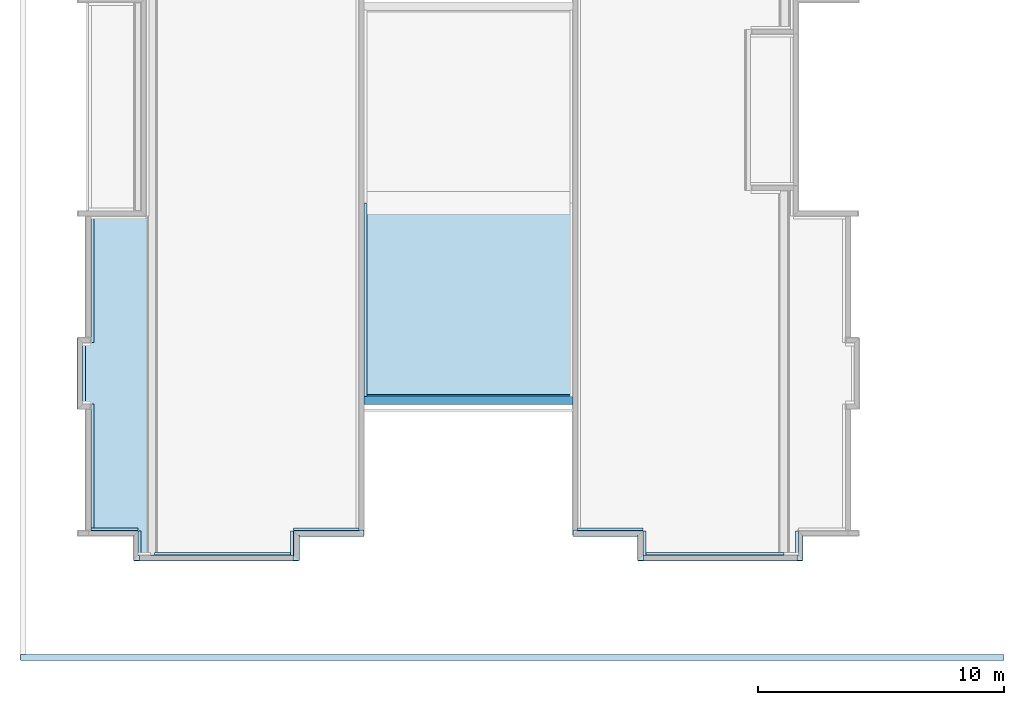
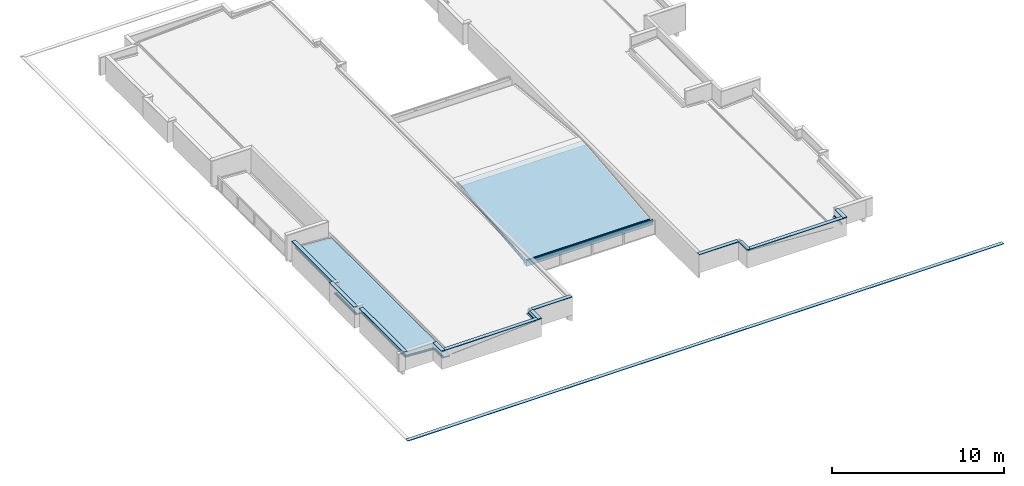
# One storey, part 9 of 25: 28 roofs.
"""IFC4 building model written with IfcOpenShell, lengths in metres."""

from ifc_helpers import new_model, entity, si_unit, converted_unit, derived_unit, direction, frame, origin_with_axes, place, context, subcontext, project, spatial, line, indexed_curve, outline, extrude, clip, halfspace, material, material_profile, profile_set, type_object, element, save


model = new_model("IFC4")

# Units and contexts
model_context = context("Model", 3, precision=1e-05, world=origin_with_axes(), true_north=direction((0.0, 1.0)))
body_context = subcontext(model_context, "Body", "Model", "MODEL_VIEW")
ifc_project = project(units=[si_unit("LENGTHUNIT", "METRE"), si_unit("AREAUNIT", "SQUARE_METRE"), si_unit("VOLUMEUNIT", "CUBIC_METRE"), converted_unit("PLANEANGLEUNIT", "DEGREE", entity("IfcPlaneAngleMeasure", 0.0174532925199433), si_unit("PLANEANGLEUNIT", "RADIAN"), dimensions=[0, 0, 0, 0, 0, 0, 0]), converted_unit("TIMEUNIT", "Year", entity("IfcTimeMeasure", 31557600.0), si_unit("TIMEUNIT", "SECOND"), dimensions=[0, 0, 1, 0, 0, 0, 0]), si_unit("MASSUNIT", "GRAM", prefix="KILO"), si_unit("THERMODYNAMICTEMPERATUREUNIT", "DEGREE_CELSIUS"), si_unit("LUMINOUSINTENSITYUNIT", "LUMEN"), si_unit("ENERGYUNIT", "JOULE", prefix="MEGA"), derived_unit("THERMALCONDUCTANCEUNIT", [(si_unit("POWERUNIT", "WATT"), 1), (si_unit("LENGTHUNIT", "METRE"), -1), (si_unit("THERMODYNAMICTEMPERATUREUNIT", "KELVIN"), -1)]), derived_unit("SPECIFICHEATCAPACITYUNIT", [(si_unit("ENERGYUNIT", "JOULE"), 1), (si_unit("MASSUNIT", "GRAM", prefix="KILO"), -1), (si_unit("THERMODYNAMICTEMPERATUREUNIT", "KELVIN"), -1)]), derived_unit("MASSDENSITYUNIT", [(si_unit("MASSUNIT", "GRAM", prefix="KILO"), 1), (si_unit("VOLUMEUNIT", "CUBIC_METRE"), -1)])], contexts=[model_context])

# Site, building, storey
site_placement = place(None, origin_with_axes())
site = spatial("IfcSite", under=ifc_project, at=site_placement, Name="PADRÃO", CompositionType="ELEMENT")
building_placement = place(site_placement, origin_with_axes())
building = spatial("IfcBuilding", under=site, at=building_placement, Name="CRECHE PRÉ-ESCOLA TIPO 2", CompositionType="ELEMENT")
storey_placement = place(building_placement, frame((0.0, 0.0, 3.26), z_axis=(0.0, 0.0, 1.0), x_axis=(1.0, 0.0, 0.0)))
storey = spatial("IfcBuildingStorey", under=building, at=storey_placement, Name="COBERTURA", CompositionType="ELEMENT", Elevation=3.26)

# Roofs
ifc_material_1 = material(Name="TELHA METÁLICA TERMOACÚSTICA")
roof_type_1 = type_object("IfcRoofType", Name="TELHA METÁLICA TERMOACÚSTICA 70", PredefinedType="NOTDEFINED")
roof_1_placement = place(storey_placement, frame((-37.1400491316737, 5.25000196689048, 0.7296), z_axis=(0.0, 0.0, 1.0), x_axis=(0.0, 1.0, 0.0)))
element("IfcRoof", 1, at=roof_1_placement, inside=storey, type_object=roof_type_1, material=ifc_material_1, Name="Cobert.-001", PredefinedType="NOTDEFINED", context=body_context, shape_type="SweptSolid", body=[
    extrude(outline(indexed_curve([(12.8000064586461, 0.00417702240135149), (7.65000092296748, 0.00417702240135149), (7.65000092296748, 0.354817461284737), (5.15000091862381, 0.354817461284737), (5.15000091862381, 0.00421014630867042), (9.19446579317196e-07, 0.00421014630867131), (9.19446579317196e-07, -1.90929012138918), (-0.999864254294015, -1.90929012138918), (-0.999864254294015, -2.4351163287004), (12.8000064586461, -2.4351163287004)], segments=[line(1, 2, 3, 4, 5, 6, 7, 8, 9, 10, 1)])), frame((0.0, 0.0, 0.0), z_axis=(0.0, -0.0603895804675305, 0.998174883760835), x_axis=(1.0, 0.0, 0.0)), (0.0, 0.0, 1.0), 0.07),
])
roof_2_placement = place(storey_placement, frame((-26.0400173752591, 10.7216836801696, 0.35290240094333), z_axis=(0.0, 0.0, 1.0), x_axis=(1.0, 0.0, 0.0)))
element("IfcRoof", 2, at=roof_2_placement, inside=storey, type_object=roof_type_1, material=ifc_material_1, Name="Cobert.-005", PredefinedType="NOTDEFINED", context=body_context, shape_type="SweptSolid", body=[
    extrude(outline(indexed_curve([(0.0, 0.007), (8.4999668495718, 0.007), (8.4999668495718, 7.89962199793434), (0.0, 7.90117785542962)], segments=[line(1, 2, 3, 4, 1)])), frame((0.0, 0.0, 0.0), z_axis=(0.0, -0.0995037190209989, 0.995037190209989), x_axis=(1.0, 0.0, 0.0)), (0.0, 0.0, 1.0), 0.07),
])
ifc_material_2 = material(Name="RUFO EM CHAPA DE AÇO GALVANIZADO")
ifc_material_profile_1 = material_profile(ifc_material_2, outline(indexed_curve([(-0.123242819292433, 0.0), (-0.123136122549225, -0.000994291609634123), (-0.01, 0.0111462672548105), (-0.01, 0.0811462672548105), (0.000794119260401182, 0.0919771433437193), (8.58116060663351e-05, 0.0926830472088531), (-0.011, 0.0815594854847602), (-0.011, 0.0120446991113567), (-0.123136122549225, 1.14495535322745e-05)], segments=[line(1, 2, 3, 4, 5, 6, 7, 8, 9, 1)])), Name="RUFO EM CHAPA DE AÇO GALVANIZADO")
ifc_profile_set_1 = profile_set([ifc_material_profile_1], Name="FNDE-Rufo")
roof_type_2 = type_object("IfcRoofType", Name="FNDE-Rufo 124 x 94", PredefinedType="NOTDEFINED")
roof_3_placement = place(storey_placement, frame((-17.339790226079, 5.25021873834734, 1.17755602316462), z_axis=(0.0, 0.0, 1.0), x_axis=(1.0366435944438e-10, -1.0, 0.0)))
element("IfcRoof", 3, at=roof_3_placement, inside=storey, type_object=roof_type_2, material=ifc_profile_set_1, Name="V01", PredefinedType="NOTDEFINED", context=body_context, shape_type="Clipping", body=[
    clip(clip(extrude(outline(indexed_curve([(-0.123242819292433, 0.0), (-0.123136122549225, -0.000994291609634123), (-0.01, 0.0111462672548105), (-0.01, 0.0811462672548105), (0.000794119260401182, 0.0919771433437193), (8.58116060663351e-05, 0.0926830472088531), (-0.011, 0.0815594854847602), (-0.011, 0.0120446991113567), (-0.123136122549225, 1.14495535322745e-05)], segments=[line(1, 2, 3, 4, 5, 6, 7, 8, 9, 1)])), frame((0.0, 2.66053162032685, -0.163888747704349), z_axis=(0.0, -0.998108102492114, 0.0614834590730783), x_axis=(1.0, 0.0, 0.0)), (0.0, 0.0, 1.0), 2.67638016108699), halfspace(frame((0.0, 0.0, 0.0), z_axis=(0.0, 1.0, 0.0), x_axis=(0.0, 0.0, 1.0)), True)), halfspace(frame((0.0, 2.64974651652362, 0.0), z_axis=(0.0, -1.0, 0.0), x_axis=(0.0, 0.0, -1.0)), True)),
])
roof_4_placement = place(storey_placement, frame((-14.6900427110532, 4.25022062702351, 1.01432991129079), z_axis=(0.0, 0.0, 1.0), x_axis=(1.09203856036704e-05, -0.999999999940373, 0.0)))
element("IfcRoof", 4, at=roof_4_placement, inside=storey, type_object=roof_type_2, material=ifc_profile_set_1, Name="V01", PredefinedType="NOTDEFINED", context=body_context, shape_type="Clipping", body=[
    clip(clip(extrude(outline(indexed_curve([(-0.123242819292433, 0.0), (-0.123136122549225, -0.000994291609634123), (-0.01, 0.0111462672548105), (-0.01, 0.0811462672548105), (0.000794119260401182, 0.0919771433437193), (8.58116060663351e-05, 0.0926830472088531), (-0.011, 0.0815594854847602), (-0.011, 0.0120446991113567), (-0.123136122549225, 1.14495535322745e-05)], segments=[line(1, 2, 3, 4, 5, 6, 7, 8, 9, 1)])), frame((0.0, 5.74495749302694, -0.353890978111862), z_axis=(0.0, -0.998108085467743, 0.0614837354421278), x_axis=(1.0, 0.0, 0.0)), (0.0, 0.0, 1.0), 5.76665265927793), halfspace(frame((0.0, 0.0, 0.0), z_axis=(0.0, 1.0, 0.0), x_axis=(0.0, 0.0, 1.0)), True)), halfspace(frame((0.0, 5.73417234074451, 0.0), z_axis=(0.0, -1.0, 0.0), x_axis=(0.0, 0.0, -1.0)), True)),
])
roof_5_placement = place(storey_placement, frame((-14.6900437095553, 5.25021873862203, 1.01432991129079), z_axis=(0.0, 0.0, 1.0), x_axis=(-0.999999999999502, -9.98504023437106e-07, 0.0)))
element("IfcRoof", 5, at=roof_5_placement, inside=storey, type_object=roof_type_2, material=ifc_profile_set_1, Name="V01", PredefinedType="NOTDEFINED", context=body_context, shape_type="SweptSolid", body=[
    extrude(outline(indexed_curve([(-0.123242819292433, 0.0), (-0.123136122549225, -0.000994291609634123), (-0.01, 0.0111462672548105), (-0.01, 0.0811462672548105), (0.000794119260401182, 0.0919771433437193), (8.58116060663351e-05, 0.0926830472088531), (-0.011, 0.0815594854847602), (-0.011, 0.0120446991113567), (-0.123136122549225, 1.14495535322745e-05)], segments=[line(1, 2, 3, 4, 5, 6, 7, 8, 9, 1)])), frame((0.0, 0.999998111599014, 0.0), z_axis=(0.0, -1.0, 0.0), x_axis=(1.0, 0.0, 0.0)), (0.0, 0.0, 1.0), 0.999998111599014),
])
roof_6_placement = place(storey_placement, frame((-8.35061730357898, 5.25015602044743, 0.684204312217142), z_axis=(0.0, 0.0, 1.0), x_axis=(-0.999999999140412, -4.14629476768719e-05, 0.0)))
element("IfcRoof", 6, at=roof_6_placement, inside=storey, type_object=roof_type_2, material=ifc_profile_set_1, Name="V01", PredefinedType="NOTDEFINED", context=body_context, shape_type="SweptSolid", body=[
    extrude(outline(indexed_curve([(-0.123242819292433, 0.0), (-0.123136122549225, -0.000994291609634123), (-0.01, 0.0111462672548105), (-0.01, 0.0811462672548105), (0.000794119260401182, 0.0919771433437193), (8.58116060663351e-05, 0.0926830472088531), (-0.011, 0.0815594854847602), (-0.011, 0.0120446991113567), (-0.123136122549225, 1.14495535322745e-05)], segments=[line(1, 2, 3, 4, 5, 6, 7, 8, 9, 1)])), frame((0.0, 0.999933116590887, 0.0), z_axis=(0.0, 1.0, 0.0), x_axis=(-1.0, 0.0, 0.0)), (0.0, 0.0, -1.0), 0.999933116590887),
])
roof_7_placement = place(storey_placement, frame((-37.1406285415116, 5.25000000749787, 0.799724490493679), z_axis=(0.0, 0.0, 1.0), x_axis=(1.0, 0.0, 0.0)))
element("IfcRoof", 7, at=roof_7_placement, inside=storey, type_object=roof_type_2, material=ifc_profile_set_1, Name="V01", PredefinedType="NOTDEFINED", context=body_context, shape_type="SweptSolid", body=[
    extrude(outline(indexed_curve([(-0.123242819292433, 0.0), (-0.123136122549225, -0.000994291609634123), (-0.01, 0.0111462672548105), (-0.01, 0.0811462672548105), (0.000794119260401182, 0.0919771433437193), (8.58116060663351e-05, 0.0926830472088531), (-0.011, 0.0815594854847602), (-0.011, 0.0120446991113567), (-0.123136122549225, 1.14495535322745e-05)], segments=[line(1, 2, 3, 4, 5, 6, 7, 8, 9, 1)])), frame((0.0, 5.14998831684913, 0.0), z_axis=(0.0, 1.0, 0.0), x_axis=(-1.0, 0.0, 0.0)), (0.0, 0.0, -1.0), 5.14998831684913),
])
roof_8_placement = place(storey_placement, frame((-37.4910623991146, 10.4000136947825, 0.820899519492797), z_axis=(0.0, 0.0, 1.0), x_axis=(0.999999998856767, -4.7816998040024e-05, 0.0)))
element("IfcRoof", 8, at=roof_8_placement, inside=storey, type_object=roof_type_2, material=ifc_profile_set_1, Name="V01", PredefinedType="NOTDEFINED", context=body_context, shape_type="SweptSolid", body=[
    extrude(outline(indexed_curve([(-0.123242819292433, 0.0), (-0.123136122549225, -0.000994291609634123), (-0.01, 0.0111462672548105), (-0.01, 0.0811462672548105), (0.000794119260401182, 0.0919771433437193), (8.58116060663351e-05, 0.0926830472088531), (-0.011, 0.0815594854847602), (-0.011, 0.0120446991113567), (-0.123136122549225, 1.14495535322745e-05)], segments=[line(1, 2, 3, 4, 5, 6, 7, 8, 9, 1)])), frame((0.0, 2.49998732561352, 0.0), z_axis=(0.0, 1.0, 0.0), x_axis=(-1.0, 0.0, 0.0)), (0.0, 0.0, -1.0), 2.49998732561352),
])
roof_9_placement = place(storey_placement, frame((-37.1406860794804, 12.9000010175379, 0.799889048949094), z_axis=(0.0, 0.0, 1.0), x_axis=(1.0, 0.0, 0.0)))
element("IfcRoof", 9, at=roof_9_placement, inside=storey, type_object=roof_type_2, material=ifc_profile_set_1, Name="V01", PredefinedType="NOTDEFINED", context=body_context, shape_type="SweptSolid", body=[
    extrude(outline(indexed_curve([(-0.123242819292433, 0.0), (-0.123136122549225, -0.000994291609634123), (-0.01, 0.0111462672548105), (-0.01, 0.0811462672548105), (0.000794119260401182, 0.0919771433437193), (8.58116060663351e-05, 0.0926830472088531), (-0.011, 0.0815594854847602), (-0.011, 0.0120446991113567), (-0.123136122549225, 1.14495535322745e-05)], segments=[line(1, 2, 3, 4, 5, 6, 7, 8, 9, 1)])), frame((0.0, 5.14999851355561, 0.0), z_axis=(0.0, 1.0, 0.0), x_axis=(-1.0, 0.0, 0.0)), (0.0, 0.0, -1.0), 5.14999851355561),
])
roof_10_placement = place(storey_placement, frame((-26.2385567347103, 5.25000111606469, 1.17167117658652), z_axis=(0.0, 0.0, 1.0), x_axis=(1.03663519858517e-10, 1.0, 0.0)))
element("IfcRoof", 10, at=roof_10_placement, inside=storey, type_object=roof_type_2, material=ifc_profile_set_1, Name="V01", PredefinedType="NOTDEFINED", context=body_context, shape_type="Clipping", body=[
    clip(clip(extrude(outline(indexed_curve([(-0.123242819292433, 0.0), (-0.123136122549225, -0.000994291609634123), (-0.01, 0.0111462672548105), (-0.01, 0.0811462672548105), (0.000794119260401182, 0.0919771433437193), (8.58116060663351e-05, 0.0926830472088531), (-0.011, 0.0815594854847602), (-0.011, 0.0120446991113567), (-0.123136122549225, 1.14495535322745e-05)], segments=[line(1, 2, 3, 4, 5, 6, 7, 8, 9, 1)])), frame((0.0, 2.66235113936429, -0.162151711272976), z_axis=(0.0, 0.998150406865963, -0.0607928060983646), x_axis=(-1.0, 0.0, 0.0)), (0.0, 0.0, -1.0), 2.67796824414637), halfspace(frame((0.0, 0.0, 0.0), z_axis=(0.0, 1.0, 0.0), x_axis=(0.0, 0.0, 1.0)), True)), halfspace(frame((0.0, 2.65168718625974, 0.0), z_axis=(0.0, -1.0, 0.0), x_axis=(0.0, 0.0, -1.0)), True)),
])
roof_11_placement = place(storey_placement, frame((-26.0400173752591, 18.5725247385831, 1.20835983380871), z_axis=(0.0, 0.0, 1.0), x_axis=(-1.0, 0.0, 0.0)))
element("IfcRoof", 11, at=roof_11_placement, inside=storey, type_object=roof_type_2, material=ifc_profile_set_1, Name="V10", PredefinedType="NOTDEFINED", context=body_context, shape_type="Clipping", body=[
    clip(clip(extrude(outline(indexed_curve([(-0.123242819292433, 0.0), (-0.123136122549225, -0.000994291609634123), (-0.01, 0.0111462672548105), (-0.01, 0.0811462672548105), (0.000794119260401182, 0.0919771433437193), (8.58116060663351e-05, 0.0926830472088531), (-0.011, 0.0815594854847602), (-0.011, 0.0120446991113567), (-0.123136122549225, 1.14495535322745e-05)], segments=[line(1, 2, 3, 4, 5, 6, 7, 8, 9, 1)])), frame((0.0, 7.8682960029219, -0.786853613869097), z_axis=(0.0, -0.995036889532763, 0.0995067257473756), x_axis=(1.0, 0.0, 0.0)), (0.0, 0.0, 1.0), 7.92508401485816), halfspace(frame((0.0, 0.0, 0.0), z_axis=(0.0, 1.0, 0.0), x_axis=(0.0, 0.0, 1.0)), True)), halfspace(frame((0.0, 7.8508410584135, 0.0), z_axis=(0.0, -1.0, 0.0), x_axis=(0.0, 0.0, -1.0)), True)),
])
roof_12_placement = place(storey_placement, frame((-28.8902449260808, 4.25028909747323, 1.01016895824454), z_axis=(0.0, 0.0, 1.0), x_axis=(-2.30995829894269e-05, 0.999999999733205, 0.0)))
element("IfcRoof", 12, at=roof_12_placement, inside=storey, type_object=roof_type_2, material=ifc_profile_set_1, Name="V01", PredefinedType="NOTDEFINED", context=body_context, shape_type="Clipping", body=[
    clip(clip(extrude(outline(indexed_curve([(-0.123242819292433, 0.0), (-0.123136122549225, -0.000994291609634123), (-0.01, 0.0111462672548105), (-0.01, 0.0811462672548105), (0.000794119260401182, 0.0919771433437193), (8.58116060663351e-05, 0.0926830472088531), (-0.011, 0.0815594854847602), (-0.011, 0.0120446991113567), (-0.123136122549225, 1.14495535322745e-05)], segments=[line(1, 2, 3, 4, 5, 6, 7, 8, 9, 1)])), frame((0.0, 5.66659814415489, -0.348957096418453), z_axis=(0.0, 0.998109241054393, -0.0614649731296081), x_axis=(-1.0, 0.0, 0.0)), (0.0, 0.0, -1.0), 5.68813489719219), halfspace(frame((0.0, 0.0, 0.0), z_axis=(0.0, 1.0, 0.0), x_axis=(0.0, 0.0, 1.0)), True)), halfspace(frame((0.0, 5.65581628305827, 0.0), z_axis=(0.0, -1.0, 0.0), x_axis=(0.0, 0.0, -1.0)), True)),
])
roof_13_placement = place(storey_placement, frame((-28.8902439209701, 5.25000111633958, 1.01016895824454), z_axis=(0.0, 0.0, 1.0), x_axis=(-0.999999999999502, 9.98504024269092e-07, 0.0)))
element("IfcRoof", 13, at=roof_13_placement, inside=storey, type_object=roof_type_2, material=ifc_profile_set_1, Name="V01", PredefinedType="NOTDEFINED", context=body_context, shape_type="SweptSolid", body=[
    extrude(outline(indexed_curve([(-0.123242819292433, 0.0), (-0.123136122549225, -0.000994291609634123), (-0.01, 0.0111462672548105), (-0.01, 0.0811462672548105), (0.000794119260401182, 0.0919771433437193), (8.58116060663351e-05, 0.0926830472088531), (-0.011, 0.0815594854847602), (-0.011, 0.0120446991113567), (-0.123136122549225, 1.14495535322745e-05)], segments=[line(1, 2, 3, 4, 5, 6, 7, 8, 9, 1)])), frame((0.0, 0.999998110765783, 0.0), z_axis=(0.0, 1.0, 0.0), x_axis=(-1.0, 0.0, 0.0)), (0.0, 0.0, -1.0), 0.999998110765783),
])
roof_14_placement = place(storey_placement, frame((-37.1406285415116, 5.25000000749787, 0.799724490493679), z_axis=(0.0, 0.0, 1.0), x_axis=(0.0, -1.0, 0.0)))
element("IfcRoof", 14, at=roof_14_placement, inside=storey, type_object=roof_type_2, material=ifc_profile_set_1, Name="V01", PredefinedType="NOTDEFINED", context=body_context, shape_type="Clipping", body=[
    clip(clip(extrude(outline(indexed_curve([(-0.123242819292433, 0.0), (-0.123136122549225, -0.000994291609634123), (-0.01, 0.0111462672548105), (-0.01, 0.0811462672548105), (0.000794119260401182, 0.0919771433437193), (8.58116060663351e-05, 0.0926830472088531), (-0.011, 0.0815594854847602), (-0.011, 0.0120446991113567), (-0.123136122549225, 1.14495535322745e-05)], segments=[line(1, 2, 3, 4, 5, 6, 7, 8, 9, 1)])), frame((0.0, 1.92108215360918, -0.116191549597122), z_axis=(0.0, -0.998175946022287, 0.0603720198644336), x_axis=(1.0, 0.0, 0.0)), (0.0, 0.0, 1.0), 1.935202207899), halfspace(frame((0.0, 0.0, 0.0), z_axis=(0.0, 1.0, 0.0), x_axis=(0.0, 0.0, 1.0)), True)), halfspace(frame((0.0, 1.91049201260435, 0.0), z_axis=(0.0, -1.0, 0.0), x_axis=(0.0, 0.0, -1.0)), True)),
])
roof_15_placement = place(storey_placement, frame((-35.2300950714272, 4.25013187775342, 0.68650078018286), z_axis=(0.0, 0.0, 1.0), x_axis=(0.999999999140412, 4.14629476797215e-05, 0.0)))
element("IfcRoof", 15, at=roof_15_placement, inside=storey, type_object=roof_type_2, material=ifc_profile_set_1, Name="V01", PredefinedType="NOTDEFINED", context=body_context, shape_type="SweptSolid", body=[
    extrude(outline(indexed_curve([(-0.123242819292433, 0.0), (-0.123136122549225, -0.000994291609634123), (-0.01, 0.0111462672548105), (-0.01, 0.0811462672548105), (0.000794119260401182, 0.0919771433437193), (8.58116060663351e-05, 0.0926830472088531), (-0.011, 0.0815594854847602), (-0.011, 0.0120446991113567), (-0.123136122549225, 1.14495535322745e-05)], segments=[line(1, 2, 3, 4, 5, 6, 7, 8, 9, 1)])), frame((0.0, 0.999868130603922, 0.0), z_axis=(0.0, 1.0, 0.0), x_axis=(-1.0, 0.0, 0.0)), (0.0, 0.0, -1.0), 0.999868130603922),
])
ifc_material_3 = material(Name="PINGADEIRA EM CHAPA DE AÇO GALVANIZADO")
ifc_material_profile_2 = material_profile(ifc_material_3, outline(indexed_curve([(0.00496259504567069, -0.0184313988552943), (0.0250000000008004, -0.03), (0.0250000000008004, 0.01), (-0.225020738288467, 0.01), (-0.22503740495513, -0.03), (-0.205, -0.0184313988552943), (-0.2055, -0.0175653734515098), (-0.224036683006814, -0.0282675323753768), (-0.224021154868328, 0.009), (0.0240000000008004, 0.009), (0.0240000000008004, -0.0282679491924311), (0.00546259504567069, -0.0175653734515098)], segments=[line(1, 2, 3, 4, 5, 6, 7, 8, 9, 10, 11, 12, 1)])), Name="PINGADEIRA EM CHAPA DE AÇO GALVANIZADO")
ifc_profile_set_2 = profile_set([ifc_material_profile_2], Name="FNDE-Pingadeira em chapa de aço galvanizado")
roof_type_3 = type_object("IfcRoofType", Name="FNDE-Pingadeira em chapa de aço galvanizado 250 x 40", PredefinedType="NOTDEFINED")
roof_16_placement = place(storey_placement, frame((-8.20056425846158, 4.05001723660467, 1.31), z_axis=(0.0, 0.0, 1.0), x_axis=(2.0731473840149e-05, 0.999999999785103, 0.0)))
element("IfcRoof", 16, at=roof_16_placement, inside=storey, type_object=roof_type_3, material=ifc_profile_set_2, Name="V01", PredefinedType="NOTDEFINED", context=body_context, shape_type="SweptSolid", body=[
    extrude(outline(indexed_curve([(0.00496259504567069, -0.0184313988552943), (0.0250000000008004, -0.03), (0.0250000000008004, 0.01), (-0.225020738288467, 0.01), (-0.22503740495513, -0.03), (-0.205, -0.0184313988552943), (-0.2055, -0.0175653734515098), (-0.224036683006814, -0.0282675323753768), (-0.224021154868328, 0.009), (0.0240000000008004, 0.009), (0.0240000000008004, -0.0282679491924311), (0.00546259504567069, -0.0175653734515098)], segments=[line(1, 2, 3, 4, 5, 6, 7, 8, 9, 10, 11, 12, 1)])), frame((0.0, 6.69000004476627, 0.0), z_axis=(0.0, 1.0, 0.0), x_axis=(-1.0, 0.0, 0.0)), (0.0, 0.0, -1.0), 6.69000004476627),
])
roof_17_placement = place(storey_placement, frame((-17.5400505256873, 5.05015592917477, 1.31), z_axis=(0.0, 0.0, 1.0), x_axis=(0.0, -1.0, 0.0)))
element("IfcRoof", 17, at=roof_17_placement, inside=storey, type_object=roof_type_3, material=ifc_profile_set_2, Name="V01", PredefinedType="NOTDEFINED", context=body_context, shape_type="SweptSolid", body=[
    extrude(outline(indexed_curve([(0.00496259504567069, -0.0184313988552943), (0.0250000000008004, -0.03), (0.0250000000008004, 0.01), (-0.225020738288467, 0.01), (-0.22503740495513, -0.03), (-0.205, -0.0184313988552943), (-0.2055, -0.0175653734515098), (-0.224036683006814, -0.0282675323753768), (-0.224021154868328, 0.009), (0.0240000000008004, 0.009), (0.0240000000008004, -0.0282679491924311), (0.00546259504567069, -0.0175653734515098)], segments=[line(1, 2, 3, 4, 5, 6, 7, 8, 9, 10, 11, 12, 1)])), frame((0.0, 2.64948622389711, 0.0), z_axis=(0.0, -1.0, 0.0), x_axis=(1.0, 0.0, 0.0)), (0.0, 0.0, 1.0), 2.64948622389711),
])
roof_18_placement = place(storey_placement, frame((-14.8905643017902, 5.05015592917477, 1.31), z_axis=(0.0, 0.0, 1.0), x_axis=(-1.0, 0.0, 0.0)))
element("IfcRoof", 18, at=roof_18_placement, inside=storey, type_object=roof_type_3, material=ifc_profile_set_2, Name="V01", PredefinedType="NOTDEFINED", context=body_context, shape_type="SweptSolid", body=[
    extrude(outline(indexed_curve([(0.00496259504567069, -0.0184313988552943), (0.0250000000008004, -0.03), (0.0250000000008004, 0.01), (-0.225020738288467, 0.01), (-0.22503740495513, -0.03), (-0.205, -0.0184313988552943), (-0.2055, -0.0175653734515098), (-0.224036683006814, -0.0282675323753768), (-0.224021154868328, 0.009), (0.0240000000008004, 0.009), (0.0240000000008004, -0.0282679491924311), (0.00546259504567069, -0.0175653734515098)], segments=[line(1, 2, 3, 4, 5, 6, 7, 8, 9, 10, 11, 12, 1)])), frame((0.0, 0.999999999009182, 0.0), z_axis=(0.0, -1.0, 0.0), x_axis=(1.0, 0.0, 0.0)), (0.0, 0.0, 1.0), 0.999999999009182),
])
roof_19_placement = place(storey_placement, frame((-8.2010428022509, 5.05015567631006, 1.31), z_axis=(0.0, 0.0, 1.0), x_axis=(-0.999999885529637, -0.000478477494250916, 0.0)))
element("IfcRoof", 19, at=roof_19_placement, inside=storey, type_object=roof_type_3, material=ifc_profile_set_2, Name="V01", PredefinedType="NOTDEFINED", context=body_context, shape_type="SweptSolid", body=[
    extrude(outline(indexed_curve([(0.00496259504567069, -0.0184313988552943), (0.0250000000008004, -0.03), (0.0250000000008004, 0.01), (-0.225020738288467, 0.01), (-0.22503740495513, -0.03), (-0.205, -0.0184313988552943), (-0.2055, -0.0175653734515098), (-0.224036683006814, -0.0282675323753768), (-0.224021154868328, 0.009), (0.0240000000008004, 0.009), (0.0240000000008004, -0.0282679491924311), (0.00546259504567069, -0.0175653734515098)], segments=[line(1, 2, 3, 4, 5, 6, 7, 8, 9, 10, 11, 12, 1)])), frame((0.0, 1.00013855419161, 0.0), z_axis=(0.0, 1.0, 0.0), x_axis=(-1.0, 0.0, 0.0)), (0.0, 0.0, -1.0), 1.00013855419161),
])
roof_20_placement = place(storey_placement, frame((-35.3801120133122, 5.04999887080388, 1.31), z_axis=(0.0, 0.0, 1.0), x_axis=(-0.999999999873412, -1.59115317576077e-05, 0.0)))
element("IfcRoof", 20, at=roof_20_placement, inside=storey, type_object=roof_type_3, material=ifc_profile_set_2, Name="V01", PredefinedType="NOTDEFINED", context=body_context, shape_type="SweptSolid", body=[
    extrude(outline(indexed_curve([(0.00496259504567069, -0.0184313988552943), (0.0250000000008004, -0.03), (0.0250000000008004, 0.01), (-0.225020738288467, 0.01), (-0.22503740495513, -0.03), (-0.205, -0.0184313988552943), (-0.2055, -0.0175653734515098), (-0.224036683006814, -0.0282675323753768), (-0.224021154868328, 0.009), (0.0240000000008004, 0.009), (0.0240000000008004, -0.0282679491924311), (0.00546259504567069, -0.0175653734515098)], segments=[line(1, 2, 3, 4, 5, 6, 7, 8, 9, 10, 11, 12, 1)])), frame((0.0, 0.999931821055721, 0.0), z_axis=(0.0, -1.0, 0.0), x_axis=(1.0, 0.0, 0.0)), (0.0, 0.0, 1.0), 0.999931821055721),
])
roof_21_placement = place(storey_placement, frame((-35.3800961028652, 4.05006704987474, 1.31), z_axis=(0.0, 0.0, 1.0), x_axis=(1.5911531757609e-05, -0.999999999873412, 0.0)))
element("IfcRoof", 21, at=roof_21_placement, inside=storey, type_object=roof_type_3, material=ifc_profile_set_2, Name="V01", PredefinedType="NOTDEFINED", context=body_context, shape_type="SweptSolid", body=[
    extrude(outline(indexed_curve([(0.00496259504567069, -0.0184313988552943), (0.0250000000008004, -0.03), (0.0250000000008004, 0.01), (-0.225020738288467, 0.01), (-0.22503740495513, -0.03), (-0.205, -0.0184313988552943), (-0.2055, -0.0175653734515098), (-0.224036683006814, -0.0282675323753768), (-0.224021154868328, 0.009), (0.0240000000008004, 0.009), (0.0240000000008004, -0.0282679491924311), (0.00546259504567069, -0.0175653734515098)], segments=[line(1, 2, 3, 4, 5, 6, 7, 8, 9, 10, 11, 12, 1)])), frame((0.0, 6.69002468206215, 0.0), z_axis=(0.0, -1.0, 0.0), x_axis=(1.0, 0.0, 0.0)), (0.0, 0.0, 1.0), 6.69002468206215),
])
roof_22_placement = place(storey_placement, frame((-28.69007142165, 4.05017349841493, 1.31), z_axis=(0.0, 0.0, 1.0), x_axis=(0.99999999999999, -1.40640752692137e-07, 0.0)))
element("IfcRoof", 22, at=roof_22_placement, inside=storey, type_object=roof_type_3, material=ifc_profile_set_2, Name="V01", PredefinedType="NOTDEFINED", context=body_context, shape_type="SweptSolid", body=[
    extrude(outline(indexed_curve([(0.00496259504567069, -0.0184313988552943), (0.0250000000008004, -0.03), (0.0250000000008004, 0.01), (-0.225020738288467, 0.01), (-0.22503740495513, -0.03), (-0.205, -0.0184313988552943), (-0.2055, -0.0175653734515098), (-0.224036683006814, -0.0282675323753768), (-0.224021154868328, 0.009), (0.0240000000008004, 0.009), (0.0240000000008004, -0.0282679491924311), (0.00546259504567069, -0.0175653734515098)], segments=[line(1, 2, 3, 4, 5, 6, 7, 8, 9, 10, 11, 12, 1)])), frame((0.0, 0.999894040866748, 0.0), z_axis=(0.0, -1.0, 0.0), x_axis=(1.0, 0.0, 0.0)), (0.0, 0.0, 1.0), 0.999894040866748),
])
roof_23_placement = place(storey_placement, frame((-28.6900712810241, 5.05006753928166, 1.31), z_axis=(0.0, 0.0, 1.0), x_axis=(-3.36340030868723e-05, -0.999999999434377, 0.0)))
element("IfcRoof", 23, at=roof_23_placement, inside=storey, type_object=roof_type_3, material=ifc_profile_set_2, Name="V01", PredefinedType="NOTDEFINED", context=body_context, shape_type="SweptSolid", body=[
    extrude(outline(indexed_curve([(0.00496259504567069, -0.0184313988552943), (0.0250000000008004, -0.03), (0.0250000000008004, 0.01), (-0.225020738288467, 0.01), (-0.22503740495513, -0.03), (-0.205, -0.0184313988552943), (-0.2055, -0.0175653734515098), (-0.224036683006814, -0.0282675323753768), (-0.224021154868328, 0.009), (0.0240000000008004, 0.009), (0.0240000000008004, -0.0282679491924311), (0.00546259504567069, -0.0175653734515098)], segments=[line(1, 2, 3, 4, 5, 6, 7, 8, 9, 10, 11, 12, 1)])), frame((0.0, 2.64997492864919, 0.0), z_axis=(0.0, -1.0, 0.0), x_axis=(1.0, 0.0, 0.0)), (0.0, 0.0, 1.0), 2.64997492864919),
])
roof_24_placement = place(storey_placement, frame((-37.3400714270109, 18.0500019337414, 1.31), z_axis=(0.0, 0.0, 1.0), x_axis=(-0.999999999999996, -9.30491507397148e-08, 0.0)))
element("IfcRoof", 24, at=roof_24_placement, inside=storey, type_object=roof_type_3, material=ifc_profile_set_2, Name="V01", PredefinedType="NOTDEFINED", context=body_context, shape_type="SweptSolid", body=[
    extrude(outline(indexed_curve([(0.00496259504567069, -0.0184313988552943), (0.0250000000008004, -0.03), (0.0250000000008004, 0.01), (-0.225020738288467, 0.01), (-0.22503740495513, -0.03), (-0.205, -0.0184313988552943), (-0.2055, -0.0175653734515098), (-0.224036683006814, -0.0282675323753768), (-0.224021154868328, 0.009), (0.0240000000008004, 0.009), (0.0240000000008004, -0.0282679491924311), (0.00546259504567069, -0.0175653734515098)], segments=[line(1, 2, 3, 4, 5, 6, 7, 8, 9, 10, 11, 12, 1)])), frame((0.0, 4.94999998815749, 0.0), z_axis=(0.0, -1.0, 0.0), x_axis=(1.0, 0.0, 0.0)), (0.0, 0.0, 1.0), 4.94999998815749),
])
roof_25_placement = place(storey_placement, frame((-37.3401040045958, 10.2000019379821, 1.31), z_axis=(0.0, 0.0, 1.0), x_axis=(-1.0, 0.0, 0.0)))
element("IfcRoof", 25, at=roof_25_placement, inside=storey, type_object=roof_type_3, material=ifc_profile_set_2, Name="V01", PredefinedType="NOTDEFINED", context=body_context, shape_type="SweptSolid", body=[
    extrude(outline(indexed_curve([(0.00496259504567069, -0.0184313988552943), (0.0250000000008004, -0.03), (0.0250000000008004, 0.01), (-0.225020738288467, 0.01), (-0.22503740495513, -0.03), (-0.205, -0.0184313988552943), (-0.2055, -0.0175653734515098), (-0.224036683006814, -0.0282675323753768), (-0.224021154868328, 0.009), (0.0240000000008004, 0.009), (0.0240000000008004, -0.0282679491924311), (0.00546259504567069, -0.0175653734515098)], segments=[line(1, 2, 3, 4, 5, 6, 7, 8, 9, 10, 11, 12, 1)])), frame((0.0, 5.15000046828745, 0.0), z_axis=(0.0, -1.0, 0.0), x_axis=(1.0, 0.0, 0.0)), (0.0, 0.0, 1.0), 5.15000046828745),
])
roof_26_placement = place(storey_placement, frame((-37.6900714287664, 13.1000019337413, 1.51), z_axis=(0.0, 0.0, 1.0), x_axis=(-1.0, -6.05323913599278e-10, 0.0)))
element("IfcRoof", 26, at=roof_26_placement, inside=storey, type_object=roof_type_3, material=ifc_profile_set_2, Name="V01", PredefinedType="NOTDEFINED", context=body_context, shape_type="SweptSolid", body=[
    extrude(outline(indexed_curve([(0.00496259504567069, -0.0184313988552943), (0.0250000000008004, -0.03), (0.0250000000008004, 0.01), (-0.225020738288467, 0.01), (-0.22503740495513, -0.03), (-0.205, -0.0184313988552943), (-0.2055, -0.0175653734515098), (-0.224036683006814, -0.0282675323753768), (-0.224021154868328, 0.009), (0.0240000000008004, 0.009), (0.0240000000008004, -0.0282679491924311), (0.00546259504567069, -0.0175653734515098)], segments=[line(1, 2, 3, 4, 5, 6, 7, 8, 9, 10, 11, 12, 1)])), frame((0.0, 2.89999999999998, 0.0), z_axis=(0.0, -1.0, 0.0), x_axis=(1.0, 0.0, 0.0)), (0.0, 0.0, 1.0), 2.89999999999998),
])
roof_27_placement = place(storey_placement, frame((-40.0, 0.0, -0.98), z_axis=(0.0, 0.0, 1.0), x_axis=(0.0, -1.0, 0.0)))
element("IfcRoof", 27, at=roof_27_placement, inside=storey, type_object=roof_type_3, material=ifc_profile_set_2, Name="V03", PredefinedType="NOTDEFINED", context=body_context, shape_type="SweptSolid", body=[
    extrude(outline(indexed_curve([(0.00496259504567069, -0.0184313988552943), (0.0250000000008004, -0.03), (0.0250000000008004, 0.01), (-0.225020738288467, 0.01), (-0.22503740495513, -0.03), (-0.205, -0.0184313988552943), (-0.2055, -0.0175653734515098), (-0.224036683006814, -0.0282675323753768), (-0.224021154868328, 0.009), (0.0240000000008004, 0.009), (0.0240000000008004, -0.0282679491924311), (0.00546259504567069, -0.0175653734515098)], segments=[line(1, 2, 3, 4, 5, 6, 7, 8, 9, 10, 11, 12, 1)])), frame((0.0, 40.0, 0.0), z_axis=(0.0, -1.0, 0.0), x_axis=(1.0, 0.0, 0.0)), (0.0, 0.0, 1.0), 40.0),
])
ifc_material_4 = material(Name="CALHA EM CHAPA DE AÇO GALVANIZADO")
ifc_material_profile_3 = material_profile(ifc_material_4, outline(indexed_curve([(-0.223921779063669, 0.146893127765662), (-0.223972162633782, 0.14639567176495), (-0.174226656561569, 0.141357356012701), (-0.174233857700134, 0.0163573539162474), (0.174233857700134, -0.0163573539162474), (0.174187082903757, 0.38364264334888), (0.173687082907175, 0.38364264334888), (0.173733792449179, -0.0158082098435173), (-0.173733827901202, 0.0168126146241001), (-0.173726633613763, 0.141809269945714)], segments=[line(1, 2, 3, 4, 5, 6, 7, 8, 9, 10, 1)])), Name="CALHA EM CHAPA DE AÇO GALVANIZADO")
ifc_profile_set_3 = profile_set([ifc_material_profile_3], Name="FNDE-Calha 3")
roof_type_4 = type_object("IfcRoofType", Name="FNDE-Calha 3 398 x 400", PredefinedType="NOTDEFINED")
roof_28_placement = place(storey_placement, frame((-26.0400167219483, 10.5655702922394, 0.208970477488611), z_axis=(0.0, 0.0, 1.0), x_axis=(1.54145064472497e-09, -1.0, 0.0)))
element("IfcRoof", 28, at=roof_28_placement, inside=storey, type_object=roof_type_4, material=ifc_profile_set_3, Name="V06", PredefinedType="NOTDEFINED", context=body_context, shape_type="SweptSolid", body=[
    extrude(outline(indexed_curve([(-0.223921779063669, 0.146893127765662), (-0.223972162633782, 0.14639567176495), (-0.174226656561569, 0.141357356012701), (-0.174233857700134, 0.0163573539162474), (0.174233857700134, -0.0163573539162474), (0.174187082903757, 0.38364264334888), (0.173687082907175, 0.38364264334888), (0.173733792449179, -0.0158082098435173), (-0.173733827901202, 0.0168126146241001), (-0.173726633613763, 0.141809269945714)], segments=[line(1, 2, 3, 4, 5, 6, 7, 8, 9, 10, 1)])), frame((0.0, 8.49996619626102, 0.0), z_axis=(0.0, -1.0, 0.0), x_axis=(1.0, 0.0, 0.0)), (0.0, 0.0, 1.0), 8.49996619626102),
])

save(model, "model.ifc")
